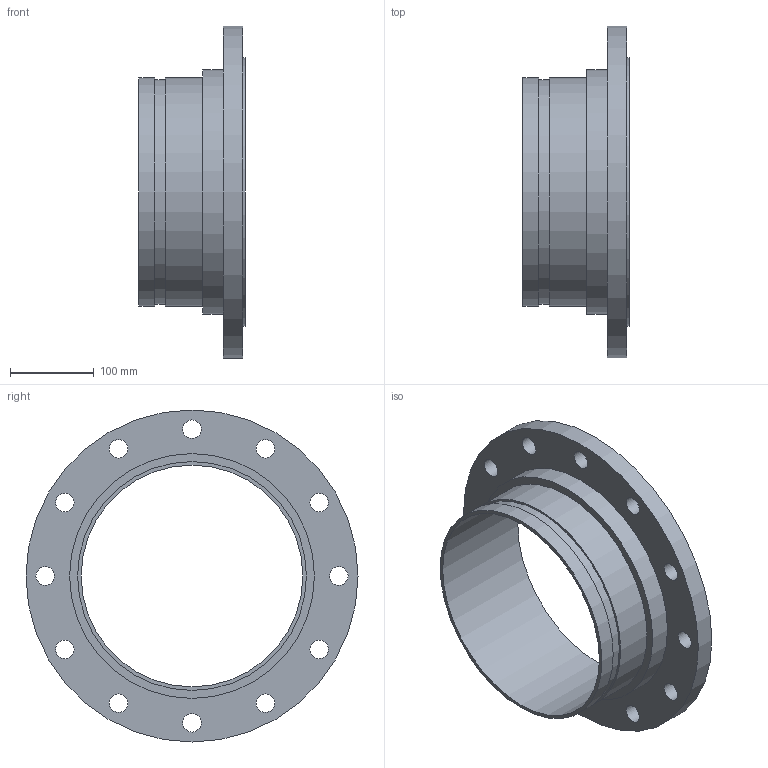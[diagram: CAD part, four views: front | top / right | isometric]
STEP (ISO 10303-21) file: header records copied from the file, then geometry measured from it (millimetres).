
FILE_DESCRIPTION(/* description */ ('VIC FLANGE ADAPTER STYLE 441N','CAx-IF Rec.Pracs.---Representation and Presentation of Product Manufacturing Information (PMI)---4.0---2014-10-13'),/* implementation_level */ '2;1');
FILE_NAME(/* name */ 'C:\Users\kkamble\AppData\Roaming\Autodesk\ApplicationPlugins\Back Up\Victaulic_SS-OGS_Flanged Adapter Nipple_PN10_Style 441N (OGSxFLG)\Victaulic_SS-OGS_Flanged Adapter Nipple_PN10_Style 441N (OGSxFLG)_10 (250).stp',/* time_stamp */ '2020-08-27T09:32:00+05:00',/* author */ ('jbrannon'),/* organization */ ('Victaulic'),/* preprocessor_version */ 'ST-DEVELOPER v17.2',/* originating_system */ 'Autodesk Inventor 2019',/* authorisation */ '');
FILE_SCHEMA (('AP242_MANAGED_MODEL_BASED_3D_ENGINEERING_MIM_LF { 1 0 10303 442 1 1 4 }'));
Length unit declared in the file: inch
Products named in the file (1): 441N-10.0
Bounding box: 127 x 396.24 x 396.24 mm (x, y, z)
Volume: 2076091.7 mm3; surface area: 375627.8 mm2
Topology: 1 solids, 1 shells, 26 faces, 71 edges, 52 vertices
Faces by surface type: cylinder 19, plane 7
Full cylindrical faces by diameter (mm): 22.098 x12, 264.668 x1, 268.275 x1, 273.05 x2, 292.1 x1, 320.04 x1, 396.24 x1
Entity records: 1089 total; most frequent: DIRECTION 203, CARTESIAN_POINT 167, ORIENTED_EDGE 142, AXIS2_PLACEMENT_3D 92, EDGE_CURVE 71, EDGE_LOOP 57, CIRCLE 52, VERTEX_POINT 52
